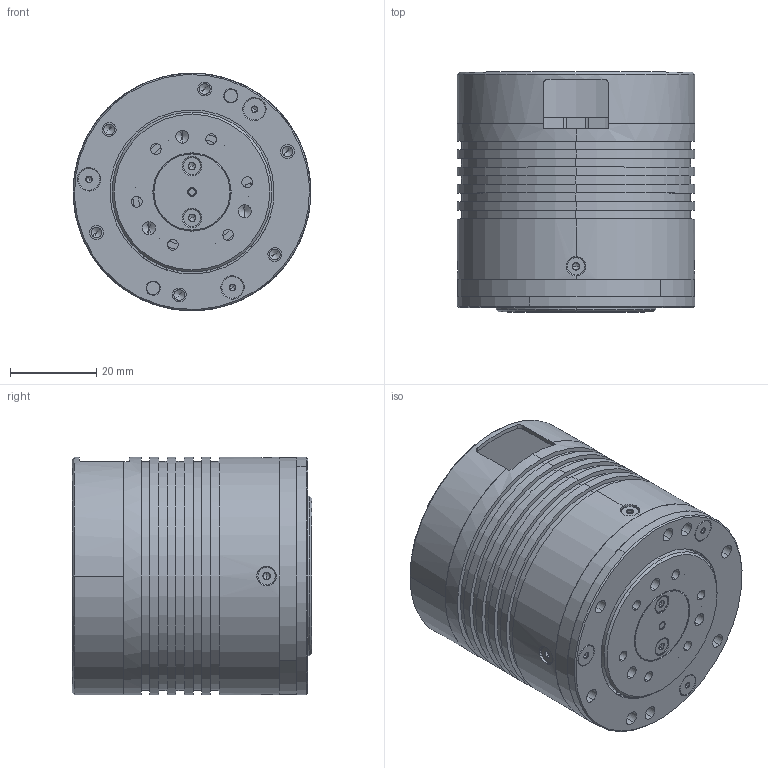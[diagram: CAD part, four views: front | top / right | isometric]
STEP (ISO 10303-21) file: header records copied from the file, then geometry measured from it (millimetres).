
FILE_DESCRIPTION (( 'STEP AP203' ), '1' );
FILE_NAME ('X4-P12.5-10.STEP', '2025-11-28T02:54:30', ( '' ), ( '' ), 'SwSTEP 2.0', 'SolidWorks 2020', '' );
FILE_SCHEMA (( 'CONFIG_CONTROL_DESIGN' ));
Length unit declared in the file: millimetre
Products named in the file (13): MT-X4P12.5-0018-V1_Default<偌樓馱>; MT-X4P12.5-0014-V1_Default<偌樓馱>; D4h6_Default<偌樓馱>; M2X12; D4xD10x0.3  _Default<偌樓馱>; MT-X4P12.5-0015-V1_Default<偌樓馱>; XMT.105.027; X4-P12.5-10; M2X4; M2.5X6; 8MT.013.030; 錨璃1_Default<偌樓馱>; MT-X4P12.5-0003-V1_Default<偌樓馱>
Assembly tree (20 placements, depth 2):
  X4-P12.5-10
    MT-X4P12.5-0003-V1_Default<偌樓馱>
    MT-X4P12.5-0014-V1_Default<偌樓馱>
    MT-X4P12.5-0015-V1_Default<偌樓馱>
    D4h6_Default<偌樓馱>
    D4xD10x0.3  _Default<偌樓馱>
    MT-X4P12.5-0018-V1_Default<偌樓馱>
    XMT.105.027
    錨璃1_Default<偌樓馱>
    M2X4  x6
    M2.5X6  x3
    M2X12  x2
    8MT.013.030
Bounding box: 55 x 55.5 x 55 mm (x, y, z)
Volume: 35308.2 mm3; surface area: 44469 mm2
Topology: 20 solids, 20 shells, 775 faces, 1808 edges, 1061 vertices
Faces by surface type: cylinder 344, cone 239, plane 170, bspline 22
Entity records: 19026 total; most frequent: CARTESIAN_POINT 3915, DIRECTION 3059, ORIENTED_EDGE 2652, EDGE_CURVE 1326, AXIS2_PLACEMENT_3D 1269, VERTEX_POINT 833, EDGE_LOOP 701, CIRCLE 691
